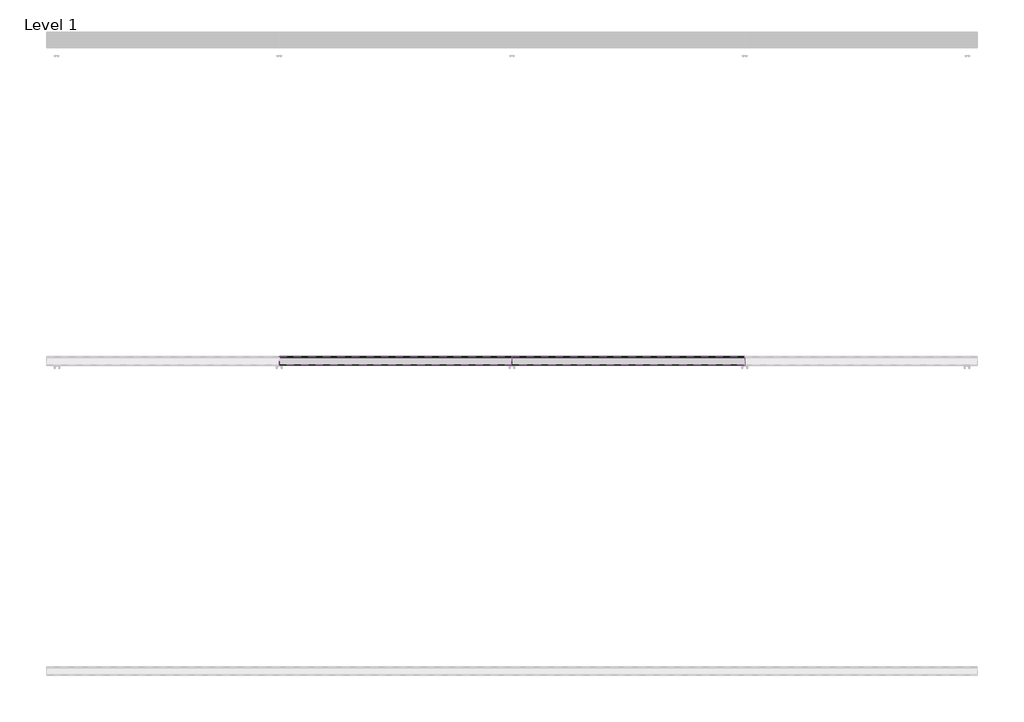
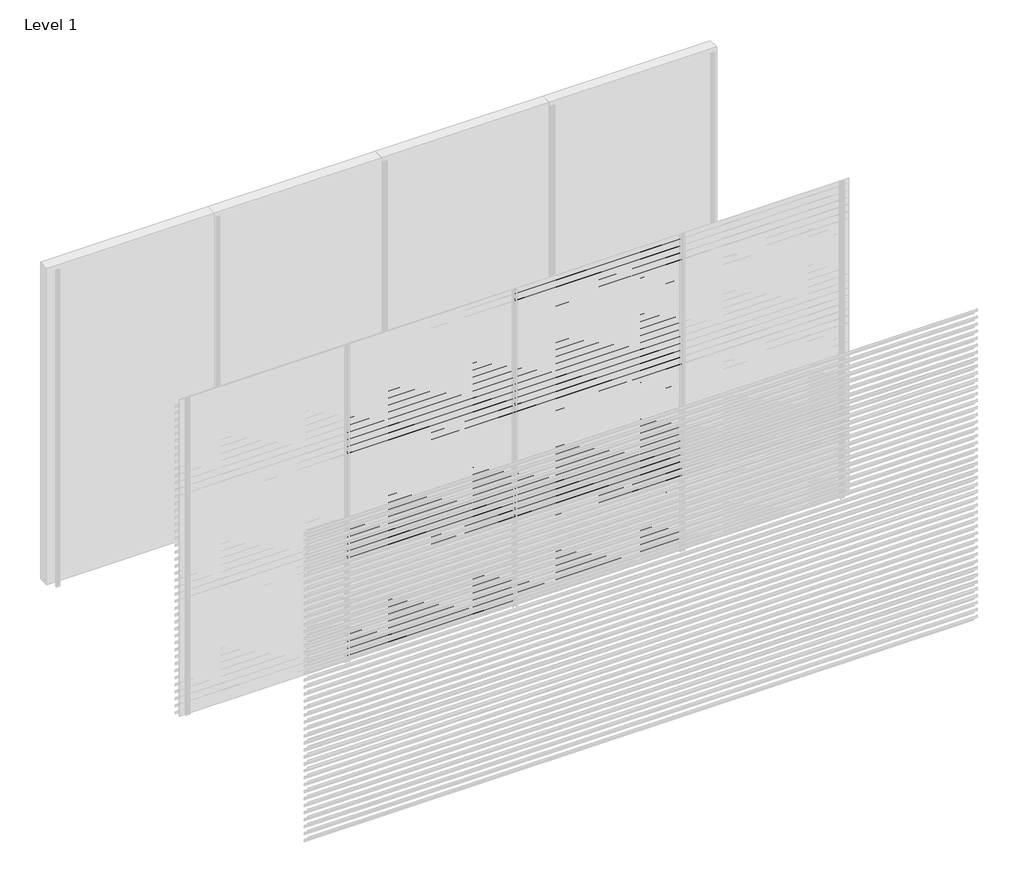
# One storey, part 22 of 25: 87 proxies.
"""IFC4 building model written with IfcOpenShell, lengths in millimetres."""

import ifcopenshell
import ifcopenshell.guid

model = None  # the IFC model being written
_history = None  # IfcOwnerHistory: only IFC2X3 demands one
_inside = {}  # id of a spatial element -> (the spatial element, [elements in it])
_under = {}  # id of a project, library or spatial element -> (it, [spatial elements below it])
_declared = {}  # id of a project -> (the project, [libraries it declares])
_typed = {}  # id of a type object -> (the type object, [elements of that type])
_made_of = {}  # id of a material, layer set ... -> (it, [elements and type objects made of it])


def new_model(schema):
    """Start an empty IFC model of exactly this schema.

    Asked for "IFC4X3", IfcOpenShell would pick the latest addendum, in which some entities
    have other attributes; the version numbers below select the first issue.
    IFC2X3 requires an IfcOwnerHistory on every rooted entity: one is made here for all.
    """
    global model, _history
    if schema == "IFC4X3":
        model = ifcopenshell.file(schema_version=(4, 3, 0, 0))
    else:
        model = ifcopenshell.file(schema=schema)
    _inside.clear()
    _under.clear()
    _declared.clear()
    _typed.clear()
    _made_of.clear()
    _history = None
    if model.schema == "IFC2X3":
        org = make("IfcOrganization", Name="unknown")
        user = make(
            "IfcPersonAndOrganization",
            ThePerson=make("IfcPerson", FamilyName="unknown"),
            TheOrganization=org,
        )
        app = make(
            "IfcApplication",
            ApplicationDeveloper=org,
            Version="unknown",
            ApplicationFullName="unknown",
            ApplicationIdentifier="unknown",
        )
        _history = make(
            "IfcOwnerHistory",
            OwningUser=user,
            OwningApplication=app,
            ChangeAction="ADDED",
            CreationDate=0,
        )
    return model


def make(cls, **values):
    """One entity of the class cls with the attributes given. An attribute that is None is left unset."""
    return model.create_entity(
        cls, **{name: value for name, value in values.items() if value is not None}
    )


def rooted(cls, **values):
    """An entity with a GlobalId (a new one), such as an element, a storey or a relation."""
    return make(cls, GlobalId=ifcopenshell.guid.new(), OwnerHistory=_history, **values)


def si_unit(unit_type, name, prefix=None):
    """IfcSIUnit, for example si_unit("LENGTHUNIT", "METRE", prefix="MILLI")."""
    return make("IfcSIUnit", UnitType=unit_type, Prefix=prefix, Name=name)


def assignment(units):
    """IfcUnitAssignment: the units of a project."""
    return None if units is None else make("IfcUnitAssignment", Units=units)


def point(xyz):
    """IfcCartesianPoint."""
    return None if xyz is None else make("IfcCartesianPoint", Coordinates=xyz)


def direction(xyz):
    """IfcDirection."""
    return None if xyz is None else make("IfcDirection", DirectionRatios=xyz)


def frame(location, z_axis=None, x_axis=None):
    """IfcAxis2Placement3D, a coordinate frame: its origin and axes. An axis left out is left unset."""
    return make(
        "IfcAxis2Placement3D",
        Location=point(location),
        Axis=direction(z_axis),
        RefDirection=direction(x_axis),
    )


def origin():
    """The frame at (0, 0, 0) with its axes left unset."""
    return frame((0.0, 0.0, 0.0))


def place(relative_to, where):
    """IfcLocalPlacement: puts the frame where relative to a parent placement (None: the world)."""
    return make(
        "IfcLocalPlacement", PlacementRelTo=relative_to, RelativePlacement=where
    )


def context(
    kind, dimensions, precision=None, world=None, true_north=None, identifier=None
):
    """IfcGeometricRepresentationContext, for example the 3D "Model" context."""
    return make(
        "IfcGeometricRepresentationContext",
        ContextIdentifier=identifier,
        ContextType=kind,
        CoordinateSpaceDimension=dimensions,
        Precision=precision,
        WorldCoordinateSystem=world,
        TrueNorth=true_north,
    )


def project(units=None, contexts=None):
    """IfcProject with its units and contexts."""
    return rooted(
        "IfcProject",
        Name="project",
        RepresentationContexts=contexts,
        UnitsInContext=assignment(units),
    )


def spatial(cls, under=None, at=None, **own):
    """A site, building, storey or space (cls), placed at a placement, below another one or the project."""
    s = rooted(cls, ObjectPlacement=at, **own)
    if under is not None:
        _under.setdefault(under.id(), (under, []))[1].append(s)
    return s


def polyline(points):
    """IfcPolyline through the points."""
    return make("IfcPolyline", Points=[point(p) for p in points])


def outline(outer, holes=None, kind="AREA"):
    """IfcArbitraryClosedProfileDef: a profile drawn as a closed curve; with holes, ...WithVoids."""
    if holes is None:
        return make("IfcArbitraryClosedProfileDef", ProfileType=kind, OuterCurve=outer)
    return make(
        "IfcArbitraryProfileDefWithVoids",
        ProfileType=kind,
        OuterCurve=outer,
        InnerCurves=holes,
    )


def extrude(swept, where, along, depth):
    """IfcExtrudedAreaSolid: the profile swept, set in the frame where, extruded along a direction by depth."""
    return make(
        "IfcExtrudedAreaSolid",
        SweptArea=swept,
        Position=where,
        ExtrudedDirection=direction(along),
        Depth=depth,
    )


def shape(context_of_items, identifier, shape_type, items):
    """IfcShapeRepresentation: the items that make up one representation, for example the "Body"."""
    return make(
        "IfcShapeRepresentation",
        ContextOfItems=context_of_items,
        RepresentationIdentifier=identifier,
        RepresentationType=shape_type,
        Items=items,
    )


def made_of(thing, what):
    """Note that an element or type object is made of a material, layer set ...; save() writes the relation."""
    if what is not None:
        _made_of.setdefault(what.id(), (what, []))[1].append(thing)
    return thing


def element(
    cls,
    number,
    at=None,
    inside=None,
    cuts=None,
    type_object=None,
    material=None,
    context=None,
    identifier="Body",
    shape_type=None,
    held_by="IfcProductDefinitionShape",
    body=None,
    shapes=None,
    **own,
):
    """One element of the class cls, such as IfcWall. Its Tag is "e" and its number.

    at: its placement. inside: the storey or other place that contains it. cuts: it is an
    opening in that element (IfcRelVoidsElement). A single representation is given by context,
    identifier, shape_type and body (its items); several are given by shapes. held_by: the class
    of the entity that holds the representations. save() writes the other relations.
    """
    e = rooted(cls, Tag="e%d" % number, ObjectPlacement=at, **own)
    if body is not None:
        shapes = [shape(context, identifier, shape_type, body)]
    if shapes is not None:
        e.Representation = make(held_by, Representations=shapes)
    if inside is not None:
        _inside.setdefault(inside.id(), (inside, []))[1].append(e)
    if cuts is not None:
        rooted(
            "IfcRelVoidsElement", RelatingBuildingElement=cuts, RelatedOpeningElement=e
        )
    if type_object is not None:
        _typed.setdefault(type_object.id(), (type_object, []))[1].append(e)
    return made_of(e, material)


def aggregate(whole, parts):
    """IfcRelAggregates: a whole, such as a stair, and the parts it consists of."""
    return rooted("IfcRelAggregates", RelatingObject=whole, RelatedObjects=parts)


def save(model, path):
    """Write the relations noted so far, then the file.

    IfcRelAggregates (storeys below a building ...), IfcRelContainedInSpatialStructure (elements
    in a storey), IfcRelDefinesByType, IfcRelAssociatesMaterial and IfcRelDeclares: one each for
    every whole, place, type object, material and project.
    """
    for whole, parts in _under.values():
        aggregate(whole, parts)
    for where, things in _inside.values():
        rooted(
            "IfcRelContainedInSpatialStructure",
            RelatedElements=things,
            RelatingStructure=where,
        )
    for kind, things in _typed.values():
        rooted("IfcRelDefinesByType", RelatedObjects=things, RelatingType=kind)
    for what, things in _made_of.values():
        rooted("IfcRelAssociatesMaterial", RelatedObjects=things, RelatingMaterial=what)
    for by, libraries in _declared.values():
        rooted("IfcRelDeclares", RelatingContext=by, RelatedDefinitions=libraries)
    model.write(path)


model = new_model("IFC4")

# Units and contexts
model_context = context("Model", 3, world=origin())
ifc_project = project(units=[si_unit("LENGTHUNIT", "METRE", prefix="MILLI")], contexts=[model_context])

# Site, building, storey
site = spatial("IfcSite", under=ifc_project)
building = spatial("IfcBuilding", under=site)
storey = spatial("IfcBuildingStorey", under=building, Name="Level 1", Elevation=0.0)

# Proxies
placement = place(None, origin())
element("IfcBuildingElementProxy", 1, Name="Wall Sweeps", at=placement, inside=storey, context=model_context, shape_type="SweptSolid", body=[
    extrude(outline(polyline([(-5943.0, 2781.5), (-5943.0, 2761.5), (-5944.25, 2762.2216933), (-5944.25, 2780.7872415), (-5998.0, 2818.3158044), (-5998.0, 2838.0), (-5996.75, 2838.0), (-5996.75, 2819.0285629), (-5943.0, 2781.5)])), frame((1500.0, 0.0, 0.0), z_axis=(1.0, 0.0, 0.0), x_axis=(0.0, 1.0, 0.0)), (0.0, 0.0, 1.0), 1500.0),
])
element("IfcBuildingElementProxy", 2, Name="Wall Sweeps", at=placement, inside=storey, context=model_context, shape_type="SweptSolid", body=[
    extrude(outline(polyline([(-5943.0, 2715.5), (-5943.0, 2695.5), (-5944.25, 2696.2216933), (-5944.25, 2714.7872415), (-5998.0, 2752.3158044), (-5998.0, 2772.0), (-5996.75, 2772.0), (-5996.75, 2753.0285629), (-5943.0, 2715.5)])), frame((1500.0, 0.0, 0.0), z_axis=(1.0, 0.0, 0.0), x_axis=(0.0, 1.0, 0.0)), (0.0, 0.0, 1.0), 1500.0),
])
element("IfcBuildingElementProxy", 3, Name="Wall Sweeps", at=placement, inside=storey, context=model_context, shape_type="SweptSolid", body=[
    extrude(outline(polyline([(-5943.0, 2649.5), (-5943.0, 2629.5), (-5944.25, 2630.2216933), (-5944.25, 2648.7872415), (-5998.0, 2686.3158044), (-5998.0, 2706.0), (-5996.75, 2706.0), (-5996.75, 2687.0285629), (-5943.0, 2649.5)])), frame((1500.0, 0.0, 0.0), z_axis=(1.0, 0.0, 0.0), x_axis=(0.0, 1.0, 0.0)), (0.0, 0.0, 1.0), 1500.0),
])
element("IfcBuildingElementProxy", 4, Name="Wall Sweeps", at=placement, inside=storey, context=model_context, shape_type="SweptSolid", body=[
    extrude(outline(polyline([(-5943.0, 2583.5), (-5943.0, 2563.5), (-5944.25, 2564.2216933), (-5944.25, 2582.7872415), (-5998.0, 2620.3158044), (-5998.0, 2640.0), (-5996.75, 2640.0), (-5996.75, 2621.0285629), (-5943.0, 2583.5)])), frame((1500.0, 0.0, 0.0), z_axis=(1.0, 0.0, 0.0), x_axis=(0.0, 1.0, 0.0)), (0.0, 0.0, 1.0), 1500.0),
])
element("IfcBuildingElementProxy", 5, Name="Wall Sweeps", at=placement, inside=storey, context=model_context, shape_type="SweptSolid", body=[
    extrude(outline(polyline([(-5943.0, 2517.5), (-5943.0, 2497.5), (-5944.25, 2498.2216933), (-5944.25, 2516.7872415), (-5998.0, 2554.3158044), (-5998.0, 2574.0), (-5996.75, 2574.0), (-5996.75, 2555.0285629), (-5943.0, 2517.5)])), frame((1500.0, 0.0, 0.0), z_axis=(1.0, 0.0, 0.0), x_axis=(0.0, 1.0, 0.0)), (0.0, 0.0, 1.0), 1500.0),
])
element("IfcBuildingElementProxy", 6, Name="Wall Sweeps", at=placement, inside=storey, context=model_context, shape_type="SweptSolid", body=[
    extrude(outline(polyline([(-5943.0, 2451.5), (-5943.0, 2431.5), (-5944.25, 2432.2216933), (-5944.25, 2450.7872415), (-5998.0, 2488.3158044), (-5998.0, 2508.0), (-5996.75, 2508.0), (-5996.75, 2489.0285629), (-5943.0, 2451.5)])), frame((1500.0, 0.0, 0.0), z_axis=(1.0, 0.0, 0.0), x_axis=(0.0, 1.0, 0.0)), (0.0, 0.0, 1.0), 1500.0),
])
element("IfcBuildingElementProxy", 7, Name="Wall Sweeps", at=placement, inside=storey, context=model_context, shape_type="SweptSolid", body=[
    extrude(outline(polyline([(-5943.0, 2385.5), (-5943.0, 2365.5), (-5944.25, 2366.2216933), (-5944.25, 2384.7872415), (-5998.0, 2422.3158044), (-5998.0, 2442.0), (-5996.75, 2442.0), (-5996.75, 2423.0285629), (-5943.0, 2385.5)])), frame((1500.0, 0.0, 0.0), z_axis=(1.0, 0.0, 0.0), x_axis=(0.0, 1.0, 0.0)), (0.0, 0.0, 1.0), 1500.0),
])
element("IfcBuildingElementProxy", 8, Name="Wall Sweeps", at=placement, inside=storey, context=model_context, shape_type="SweptSolid", body=[
    extrude(outline(polyline([(-5943.0, 2319.5), (-5943.0, 2299.5), (-5944.25, 2300.2216933), (-5944.25, 2318.7872415), (-5998.0, 2356.3158044), (-5998.0, 2376.0), (-5996.75, 2376.0), (-5996.75, 2357.0285629), (-5943.0, 2319.5)])), frame((1500.0, 0.0, 0.0), z_axis=(1.0, 0.0, 0.0), x_axis=(0.0, 1.0, 0.0)), (0.0, 0.0, 1.0), 1500.0),
])
element("IfcBuildingElementProxy", 9, Name="Wall Sweeps", at=placement, inside=storey, context=model_context, shape_type="SweptSolid", body=[
    extrude(outline(polyline([(-5943.0, 2253.5), (-5943.0, 2233.5), (-5944.25, 2234.2216933), (-5944.25, 2252.7872415), (-5998.0, 2290.3158044), (-5998.0, 2310.0), (-5996.75, 2310.0), (-5996.75, 2291.0285629), (-5943.0, 2253.5)])), frame((1500.0, 0.0, 0.0), z_axis=(1.0, 0.0, 0.0), x_axis=(0.0, 1.0, 0.0)), (0.0, 0.0, 1.0), 1500.0),
])
element("IfcBuildingElementProxy", 10, Name="Wall Sweeps", at=placement, inside=storey, context=model_context, shape_type="SweptSolid", body=[
    extrude(outline(polyline([(-5943.0, 2187.5), (-5943.0, 2167.5), (-5944.25, 2168.2216933), (-5944.25, 2186.7872415), (-5998.0, 2224.3158044), (-5998.0, 2244.0), (-5996.75, 2244.0), (-5996.75, 2225.0285629), (-5943.0, 2187.5)])), frame((1500.0, 0.0, 0.0), z_axis=(1.0, 0.0, 0.0), x_axis=(0.0, 1.0, 0.0)), (0.0, 0.0, 1.0), 1500.0),
])
element("IfcBuildingElementProxy", 11, Name="Wall Sweeps", at=placement, inside=storey, context=model_context, shape_type="SweptSolid", body=[
    extrude(outline(polyline([(-5943.0, 2121.5), (-5943.0, 2101.5), (-5944.25, 2102.2216933), (-5944.25, 2120.7872415), (-5998.0, 2158.3158044), (-5998.0, 2178.0), (-5996.75, 2178.0), (-5996.75, 2159.0285629), (-5943.0, 2121.5)])), frame((1500.0, 0.0, 0.0), z_axis=(1.0, 0.0, 0.0), x_axis=(0.0, 1.0, 0.0)), (0.0, 0.0, 1.0), 1500.0),
])
element("IfcBuildingElementProxy", 12, Name="Wall Sweeps", at=placement, inside=storey, context=model_context, shape_type="SweptSolid", body=[
    extrude(outline(polyline([(-5943.0, 2055.5), (-5943.0, 2035.5), (-5944.25, 2036.2216933), (-5944.25, 2054.7872415), (-5998.0, 2092.3158044), (-5998.0, 2112.0), (-5996.75, 2112.0), (-5996.75, 2093.0285629), (-5943.0, 2055.5)])), frame((1500.0, 0.0, 0.0), z_axis=(1.0, 0.0, 0.0), x_axis=(0.0, 1.0, 0.0)), (0.0, 0.0, 1.0), 1500.0),
])
element("IfcBuildingElementProxy", 13, Name="Wall Sweeps", at=placement, inside=storey, context=model_context, shape_type="SweptSolid", body=[
    extrude(outline(polyline([(-5943.0, 1989.5), (-5943.0, 1969.5), (-5944.25, 1970.2216933), (-5944.25, 1988.7872415), (-5998.0, 2026.3158044), (-5998.0, 2046.0), (-5996.75, 2046.0), (-5996.75, 2027.0285629), (-5943.0, 1989.5)])), frame((1500.0, 0.0, 0.0), z_axis=(1.0, 0.0, 0.0), x_axis=(0.0, 1.0, 0.0)), (0.0, 0.0, 1.0), 1500.0),
])
element("IfcBuildingElementProxy", 14, Name="Wall Sweeps", at=placement, inside=storey, context=model_context, shape_type="SweptSolid", body=[
    extrude(outline(polyline([(-5943.0, 1923.5), (-5943.0, 1903.5), (-5944.25, 1904.2216933), (-5944.25, 1922.7872415), (-5998.0, 1960.3158044), (-5998.0, 1980.0), (-5996.75, 1980.0), (-5996.75, 1961.0285629), (-5943.0, 1923.5)])), frame((1500.0, 0.0, 0.0), z_axis=(1.0, 0.0, 0.0), x_axis=(0.0, 1.0, 0.0)), (0.0, 0.0, 1.0), 1500.0),
])
element("IfcBuildingElementProxy", 15, Name="Wall Sweeps", at=placement, inside=storey, context=model_context, shape_type="SweptSolid", body=[
    extrude(outline(polyline([(-5943.0, 1857.5), (-5943.0, 1837.5), (-5944.25, 1838.2216933), (-5944.25, 1856.7872415), (-5998.0, 1894.3158044), (-5998.0, 1914.0), (-5996.75, 1914.0), (-5996.75, 1895.0285629), (-5943.0, 1857.5)])), frame((1500.0, 0.0, 0.0), z_axis=(1.0, 0.0, 0.0), x_axis=(0.0, 1.0, 0.0)), (0.0, 0.0, 1.0), 1500.0),
])
element("IfcBuildingElementProxy", 16, Name="Wall Sweeps", at=placement, inside=storey, context=model_context, shape_type="SweptSolid", body=[
    extrude(outline(polyline([(-5943.0, 1791.5), (-5943.0, 1771.5), (-5944.25, 1772.2216933), (-5944.25, 1790.7872415), (-5998.0, 1828.3158044), (-5998.0, 1848.0), (-5996.75, 1848.0), (-5996.75, 1829.0285629), (-5943.0, 1791.5)])), frame((1500.0, 0.0, 0.0), z_axis=(1.0, 0.0, 0.0), x_axis=(0.0, 1.0, 0.0)), (0.0, 0.0, 1.0), 1500.0),
])
element("IfcBuildingElementProxy", 17, Name="Wall Sweeps", at=placement, inside=storey, context=model_context, shape_type="SweptSolid", body=[
    extrude(outline(polyline([(-5943.0, 1725.5), (-5943.0, 1705.5), (-5944.25, 1706.2216933), (-5944.25, 1724.7872415), (-5998.0, 1762.3158044), (-5998.0, 1782.0), (-5996.75, 1782.0), (-5996.75, 1763.0285629), (-5943.0, 1725.5)])), frame((1500.0, 0.0, 0.0), z_axis=(1.0, 0.0, 0.0), x_axis=(0.0, 1.0, 0.0)), (0.0, 0.0, 1.0), 1500.0),
])
element("IfcBuildingElementProxy", 18, Name="Wall Sweeps", at=placement, inside=storey, context=model_context, shape_type="SweptSolid", body=[
    extrude(outline(polyline([(-5943.0, 1659.5), (-5943.0, 1639.5), (-5944.25, 1640.2216933), (-5944.25, 1658.7872415), (-5998.0, 1696.3158044), (-5998.0, 1716.0), (-5996.75, 1716.0), (-5996.75, 1697.0285629), (-5943.0, 1659.5)])), frame((1500.0, 0.0, 0.0), z_axis=(1.0, 0.0, 0.0), x_axis=(0.0, 1.0, 0.0)), (0.0, 0.0, 1.0), 1500.0),
])
element("IfcBuildingElementProxy", 19, Name="Wall Sweeps", at=placement, inside=storey, context=model_context, shape_type="SweptSolid", body=[
    extrude(outline(polyline([(-5943.0, 1593.5), (-5943.0, 1573.5), (-5944.25, 1574.2216933), (-5944.25, 1592.7872415), (-5998.0, 1630.3158044), (-5998.0, 1650.0), (-5996.75, 1650.0), (-5996.75, 1631.0285629), (-5943.0, 1593.5)])), frame((1500.0, 0.0, 0.0), z_axis=(1.0, 0.0, 0.0), x_axis=(0.0, 1.0, 0.0)), (0.0, 0.0, 1.0), 1500.0),
])
element("IfcBuildingElementProxy", 20, Name="Wall Sweeps", at=placement, inside=storey, context=model_context, shape_type="SweptSolid", body=[
    extrude(outline(polyline([(-5943.0, 1527.5), (-5943.0, 1507.5), (-5944.25, 1508.2216933), (-5944.25, 1526.7872415), (-5998.0, 1564.3158044), (-5998.0, 1584.0), (-5996.75, 1584.0), (-5996.75, 1565.0285629), (-5943.0, 1527.5)])), frame((1500.0, 0.0, 0.0), z_axis=(1.0, 0.0, 0.0), x_axis=(0.0, 1.0, 0.0)), (0.0, 0.0, 1.0), 1500.0),
])
element("IfcBuildingElementProxy", 21, Name="Wall Sweeps", at=placement, inside=storey, context=model_context, shape_type="SweptSolid", body=[
    extrude(outline(polyline([(-5943.0, 1461.5), (-5943.0, 1441.5), (-5944.25, 1442.2216933), (-5944.25, 1460.7872415), (-5998.0, 1498.3158044), (-5998.0, 1518.0), (-5996.75, 1518.0), (-5996.75, 1499.0285629), (-5943.0, 1461.5)])), frame((1500.0, 0.0, 0.0), z_axis=(1.0, 0.0, 0.0), x_axis=(0.0, 1.0, 0.0)), (0.0, 0.0, 1.0), 1500.0),
])
element("IfcBuildingElementProxy", 22, Name="Wall Sweeps", at=placement, inside=storey, context=model_context, shape_type="SweptSolid", body=[
    extrude(outline(polyline([(-5943.0, 1395.5), (-5943.0, 1375.5), (-5944.25, 1376.2216933), (-5944.25, 1394.7872415), (-5998.0, 1432.3158044), (-5998.0, 1452.0), (-5996.75, 1452.0), (-5996.75, 1433.0285629), (-5943.0, 1395.5)])), frame((1500.0, 0.0, 0.0), z_axis=(1.0, 0.0, 0.0), x_axis=(0.0, 1.0, 0.0)), (0.0, 0.0, 1.0), 1500.0),
])
element("IfcBuildingElementProxy", 23, Name="Wall Sweeps", at=placement, inside=storey, context=model_context, shape_type="SweptSolid", body=[
    extrude(outline(polyline([(-5943.0, 1329.5), (-5943.0, 1309.5), (-5944.25, 1310.2216933), (-5944.25, 1328.7872415), (-5998.0, 1366.3158044), (-5998.0, 1386.0), (-5996.75, 1386.0), (-5996.75, 1367.0285629), (-5943.0, 1329.5)])), frame((1500.0, 0.0, 0.0), z_axis=(1.0, 0.0, 0.0), x_axis=(0.0, 1.0, 0.0)), (0.0, 0.0, 1.0), 1500.0),
])
element("IfcBuildingElementProxy", 24, Name="Wall Sweeps", at=placement, inside=storey, context=model_context, shape_type="SweptSolid", body=[
    extrude(outline(polyline([(-5943.0, 1263.5), (-5943.0, 1243.5), (-5944.25, 1244.2216933), (-5944.25, 1262.7872415), (-5998.0, 1300.3158044), (-5998.0, 1320.0), (-5996.75, 1320.0), (-5996.75, 1301.0285629), (-5943.0, 1263.5)])), frame((1500.0, 0.0, 0.0), z_axis=(1.0, 0.0, 0.0), x_axis=(0.0, 1.0, 0.0)), (0.0, 0.0, 1.0), 1500.0),
])
element("IfcBuildingElementProxy", 25, Name="Wall Sweeps", at=placement, inside=storey, context=model_context, shape_type="SweptSolid", body=[
    extrude(outline(polyline([(-5943.0, 1197.5), (-5943.0, 1177.5), (-5944.25, 1178.2216933), (-5944.25, 1196.7872415), (-5998.0, 1234.3158044), (-5998.0, 1254.0), (-5996.75, 1254.0), (-5996.75, 1235.0285629), (-5943.0, 1197.5)])), frame((1500.0, 0.0, 0.0), z_axis=(1.0, 0.0, 0.0), x_axis=(0.0, 1.0, 0.0)), (0.0, 0.0, 1.0), 1500.0),
])
element("IfcBuildingElementProxy", 26, Name="Wall Sweeps", at=placement, inside=storey, context=model_context, shape_type="SweptSolid", body=[
    extrude(outline(polyline([(-5943.0, 1131.5), (-5943.0, 1111.5), (-5944.25, 1112.2216933), (-5944.25, 1130.7872415), (-5998.0, 1168.3158044), (-5998.0, 1188.0), (-5996.75, 1188.0), (-5996.75, 1169.0285629), (-5943.0, 1131.5)])), frame((1500.0, 0.0, 0.0), z_axis=(1.0, 0.0, 0.0), x_axis=(0.0, 1.0, 0.0)), (0.0, 0.0, 1.0), 1500.0),
])
element("IfcBuildingElementProxy", 27, Name="Wall Sweeps", at=placement, inside=storey, context=model_context, shape_type="SweptSolid", body=[
    extrude(outline(polyline([(-5943.0, 1065.5), (-5943.0, 1045.5), (-5944.25, 1046.2216933), (-5944.25, 1064.7872415), (-5998.0, 1102.3158044), (-5998.0, 1122.0), (-5996.75, 1122.0), (-5996.75, 1103.0285629), (-5943.0, 1065.5)])), frame((1500.0, 0.0, 0.0), z_axis=(1.0, 0.0, 0.0), x_axis=(0.0, 1.0, 0.0)), (0.0, 0.0, 1.0), 1500.0),
])
element("IfcBuildingElementProxy", 28, Name="Wall Sweeps", at=placement, inside=storey, context=model_context, shape_type="SweptSolid", body=[
    extrude(outline(polyline([(-5943.0, 999.5), (-5943.0, 979.5), (-5944.25, 980.2216933), (-5944.25, 998.7872415), (-5998.0, 1036.3158044), (-5998.0, 1056.0), (-5996.75, 1056.0), (-5996.75, 1037.0285629), (-5943.0, 999.5)])), frame((1500.0, 0.0, 0.0), z_axis=(1.0, 0.0, 0.0), x_axis=(0.0, 1.0, 0.0)), (0.0, 0.0, 1.0), 1500.0),
])
element("IfcBuildingElementProxy", 29, Name="Wall Sweeps", at=placement, inside=storey, context=model_context, shape_type="SweptSolid", body=[
    extrude(outline(polyline([(-5943.0, 933.5), (-5943.0, 913.5), (-5944.25, 914.2216933), (-5944.25, 932.7872415), (-5998.0, 970.3158044), (-5998.0, 990.0), (-5996.75, 990.0), (-5996.75, 971.0285629), (-5943.0, 933.5)])), frame((1500.0, 0.0, 0.0), z_axis=(1.0, 0.0, 0.0), x_axis=(0.0, 1.0, 0.0)), (0.0, 0.0, 1.0), 1500.0),
])
element("IfcBuildingElementProxy", 30, Name="Wall Sweeps", at=placement, inside=storey, context=model_context, shape_type="SweptSolid", body=[
    extrude(outline(polyline([(-5943.0, 867.5), (-5943.0, 847.5), (-5944.25, 848.2216933), (-5944.25, 866.7872415), (-5998.0, 904.3158044), (-5998.0, 924.0), (-5996.75, 924.0), (-5996.75, 905.0285629), (-5943.0, 867.5)])), frame((1500.0, 0.0, 0.0), z_axis=(1.0, 0.0, 0.0), x_axis=(0.0, 1.0, 0.0)), (0.0, 0.0, 1.0), 1500.0),
])
element("IfcBuildingElementProxy", 31, Name="Wall Sweeps", at=placement, inside=storey, context=model_context, shape_type="SweptSolid", body=[
    extrude(outline(polyline([(-5943.0, 801.5), (-5943.0, 781.5), (-5944.25, 782.2216933), (-5944.25, 800.7872415), (-5998.0, 838.3158044), (-5998.0, 858.0), (-5996.75, 858.0), (-5996.75, 839.0285629), (-5943.0, 801.5)])), frame((1500.0, 0.0, 0.0), z_axis=(1.0, 0.0, 0.0), x_axis=(0.0, 1.0, 0.0)), (0.0, 0.0, 1.0), 1500.0),
])
element("IfcBuildingElementProxy", 32, Name="Wall Sweeps", at=placement, inside=storey, context=model_context, shape_type="SweptSolid", body=[
    extrude(outline(polyline([(-5943.0, 735.5), (-5943.0, 715.5), (-5944.25, 716.2216933), (-5944.25, 734.7872415), (-5998.0, 772.3158044), (-5998.0, 792.0), (-5996.75, 792.0), (-5996.75, 773.0285629), (-5943.0, 735.5)])), frame((1500.0, 0.0, 0.0), z_axis=(1.0, 0.0, 0.0), x_axis=(0.0, 1.0, 0.0)), (0.0, 0.0, 1.0), 1500.0),
])
element("IfcBuildingElementProxy", 33, Name="Wall Sweeps", at=placement, inside=storey, context=model_context, shape_type="SweptSolid", body=[
    extrude(outline(polyline([(-5943.0, 669.5), (-5943.0, 649.5), (-5944.25, 650.2216933), (-5944.25, 668.7872415), (-5998.0, 706.3158044), (-5998.0, 726.0), (-5996.75, 726.0), (-5996.75, 707.0285629), (-5943.0, 669.5)])), frame((1500.0, 0.0, 0.0), z_axis=(1.0, 0.0, 0.0), x_axis=(0.0, 1.0, 0.0)), (0.0, 0.0, 1.0), 1500.0),
])
element("IfcBuildingElementProxy", 34, Name="Wall Sweeps", at=placement, inside=storey, context=model_context, shape_type="SweptSolid", body=[
    extrude(outline(polyline([(-5943.0, 603.5), (-5943.0, 583.5), (-5944.25, 584.2216933), (-5944.25, 602.7872415), (-5998.0, 640.3158044), (-5998.0, 660.0), (-5996.75, 660.0), (-5996.75, 641.0285629), (-5943.0, 603.5)])), frame((1500.0, 0.0, 0.0), z_axis=(1.0, 0.0, 0.0), x_axis=(0.0, 1.0, 0.0)), (0.0, 0.0, 1.0), 1500.0),
])
element("IfcBuildingElementProxy", 35, Name="Wall Sweeps", at=placement, inside=storey, context=model_context, shape_type="SweptSolid", body=[
    extrude(outline(polyline([(-5943.0, 537.5), (-5943.0, 517.5), (-5944.25, 518.2216933), (-5944.25, 536.7872415), (-5998.0, 574.3158044), (-5998.0, 594.0), (-5996.75, 594.0), (-5996.75, 575.0285629), (-5943.0, 537.5)])), frame((1500.0, 0.0, 0.0), z_axis=(1.0, 0.0, 0.0), x_axis=(0.0, 1.0, 0.0)), (0.0, 0.0, 1.0), 1500.0),
])
element("IfcBuildingElementProxy", 36, Name="Wall Sweeps", at=placement, inside=storey, context=model_context, shape_type="SweptSolid", body=[
    extrude(outline(polyline([(-5943.0, 471.5), (-5943.0, 451.5), (-5944.25, 452.2216933), (-5944.25, 470.7872415), (-5998.0, 508.3158044), (-5998.0, 528.0), (-5996.75, 528.0), (-5996.75, 509.0285629), (-5943.0, 471.5)])), frame((1500.0, 0.0, 0.0), z_axis=(1.0, 0.0, 0.0), x_axis=(0.0, 1.0, 0.0)), (0.0, 0.0, 1.0), 1500.0),
])
element("IfcBuildingElementProxy", 37, Name="Wall Sweeps", at=placement, inside=storey, context=model_context, shape_type="SweptSolid", body=[
    extrude(outline(polyline([(-5943.0, 405.5), (-5943.0, 385.5), (-5944.25, 386.2216933), (-5944.25, 404.7872415), (-5998.0, 442.3158044), (-5998.0, 462.0), (-5996.75, 462.0), (-5996.75, 443.0285629), (-5943.0, 405.5)])), frame((1500.0, 0.0, 0.0), z_axis=(1.0, 0.0, 0.0), x_axis=(0.0, 1.0, 0.0)), (0.0, 0.0, 1.0), 1500.0),
])
element("IfcBuildingElementProxy", 38, Name="Wall Sweeps", at=placement, inside=storey, context=model_context, shape_type="SweptSolid", body=[
    extrude(outline(polyline([(-5943.0, 339.5), (-5943.0, 319.5), (-5944.25, 320.2216933), (-5944.25, 338.7872415), (-5998.0, 376.3158044), (-5998.0, 396.0), (-5996.75, 396.0), (-5996.75, 377.0285629), (-5943.0, 339.5)])), frame((1500.0, 0.0, 0.0), z_axis=(1.0, 0.0, 0.0), x_axis=(0.0, 1.0, 0.0)), (0.0, 0.0, 1.0), 1500.0),
])
element("IfcBuildingElementProxy", 39, Name="Wall Sweeps", at=placement, inside=storey, context=model_context, shape_type="SweptSolid", body=[
    extrude(outline(polyline([(-5943.0, 273.5), (-5943.0, 253.5), (-5944.25, 254.2216933), (-5944.25, 272.7872415), (-5998.0, 310.3158044), (-5998.0, 330.0), (-5996.75, 330.0), (-5996.75, 311.0285629), (-5943.0, 273.5)])), frame((1500.0, 0.0, 0.0), z_axis=(1.0, 0.0, 0.0), x_axis=(0.0, 1.0, 0.0)), (0.0, 0.0, 1.0), 1500.0),
])
element("IfcBuildingElementProxy", 40, Name="Wall Sweeps", at=placement, inside=storey, context=model_context, shape_type="SweptSolid", body=[
    extrude(outline(polyline([(-5943.0, 207.5), (-5943.0, 187.5), (-5944.25, 188.2216933), (-5944.25, 206.7872415), (-5998.0, 244.3158044), (-5998.0, 264.0), (-5996.75, 264.0), (-5996.75, 245.0285629), (-5943.0, 207.5)])), frame((1500.0, 0.0, 0.0), z_axis=(1.0, 0.0, 0.0), x_axis=(0.0, 1.0, 0.0)), (0.0, 0.0, 1.0), 1500.0),
])
element("IfcBuildingElementProxy", 41, Name="Wall Sweeps", at=placement, inside=storey, context=model_context, shape_type="SweptSolid", body=[
    extrude(outline(polyline([(-5943.0, 141.5), (-5943.0, 121.5), (-5944.25, 122.2216933), (-5944.25, 140.7872415), (-5998.0, 178.3158044), (-5998.0, 198.0), (-5996.75, 198.0), (-5996.75, 179.0285629), (-5943.0, 141.5)])), frame((1500.0, 0.0, 0.0), z_axis=(1.0, 0.0, 0.0), x_axis=(0.0, 1.0, 0.0)), (0.0, 0.0, 1.0), 1500.0),
])
element("IfcBuildingElementProxy", 42, Name="Wall Sweeps", at=placement, inside=storey, context=model_context, shape_type="SweptSolid", body=[
    extrude(outline(polyline([(-5943.0, 75.5), (-5943.0, 55.5), (-5944.25, 56.2216933), (-5944.25, 74.7872415), (-5998.0, 112.3158044), (-5998.0, 132.0), (-5996.75, 132.0), (-5996.75, 113.0285629), (-5943.0, 75.5)])), frame((1500.0, 0.0, 0.0), z_axis=(1.0, 0.0, 0.0), x_axis=(0.0, 1.0, 0.0)), (0.0, 0.0, 1.0), 1500.0),
])
element("IfcBuildingElementProxy", 43, Name="Wall Sweeps", at=placement, inside=storey, context=model_context, shape_type="SweptSolid", body=[
    extrude(outline(polyline([(-5943.0, 9.5), (-5943.0, -10.5), (-5944.25, -9.7783067), (-5944.25, 8.7872415), (-5998.0, 46.3158044), (-5998.0, 66.0), (-5996.75, 66.0), (-5996.75, 47.0285629), (-5943.0, 9.5)])), frame((1500.0, 0.0, 0.0), z_axis=(1.0, 0.0, 0.0), x_axis=(0.0, 1.0, 0.0)), (0.0, 0.0, 1.0), 1500.0),
])
element("IfcBuildingElementProxy", 44, Name="Wall Sweeps", at=placement, inside=storey, context=model_context, shape_type="SweptSolid", body=[
    extrude(outline(polyline([(-5943.0, 2913.5), (-5943.0, 2893.5), (-5944.25, 2894.2216933), (-5944.25, 2912.7872415), (-5998.0, 2950.3158044), (-5998.0, 2970.0), (-5996.75, 2970.0), (-5996.75, 2951.0285629), (-5943.0, 2913.5)])), frame((3000.0, 0.0, 0.0), z_axis=(1.0, 0.0, 0.0), x_axis=(0.0, 1.0, 0.0)), (0.0, 0.0, 1.0), 1500.0),
])
element("IfcBuildingElementProxy", 45, Name="Wall Sweeps", at=placement, inside=storey, context=model_context, shape_type="SweptSolid", body=[
    extrude(outline(polyline([(-5943.0, 2847.5), (-5943.0, 2827.5), (-5944.25, 2828.2216933), (-5944.25, 2846.7872415), (-5998.0, 2884.3158044), (-5998.0, 2904.0), (-5996.75, 2904.0), (-5996.75, 2885.0285629), (-5943.0, 2847.5)])), frame((3000.0, 0.0, 0.0), z_axis=(1.0, 0.0, 0.0), x_axis=(0.0, 1.0, 0.0)), (0.0, 0.0, 1.0), 1500.0),
])
element("IfcBuildingElementProxy", 46, Name="Wall Sweeps", at=placement, inside=storey, context=model_context, shape_type="SweptSolid", body=[
    extrude(outline(polyline([(-5943.0, 2781.5), (-5943.0, 2761.5), (-5944.25, 2762.2216933), (-5944.25, 2780.7872415), (-5998.0, 2818.3158044), (-5998.0, 2838.0), (-5996.75, 2838.0), (-5996.75, 2819.0285629), (-5943.0, 2781.5)])), frame((3000.0, 0.0, 0.0), z_axis=(1.0, 0.0, 0.0), x_axis=(0.0, 1.0, 0.0)), (0.0, 0.0, 1.0), 1500.0),
])
element("IfcBuildingElementProxy", 47, Name="Wall Sweeps", at=placement, inside=storey, context=model_context, shape_type="SweptSolid", body=[
    extrude(outline(polyline([(-5943.0, 2715.5), (-5943.0, 2695.5), (-5944.25, 2696.2216933), (-5944.25, 2714.7872415), (-5998.0, 2752.3158044), (-5998.0, 2772.0), (-5996.75, 2772.0), (-5996.75, 2753.0285629), (-5943.0, 2715.5)])), frame((3000.0, 0.0, 0.0), z_axis=(1.0, 0.0, 0.0), x_axis=(0.0, 1.0, 0.0)), (0.0, 0.0, 1.0), 1500.0),
])
element("IfcBuildingElementProxy", 48, Name="Wall Sweeps", at=placement, inside=storey, context=model_context, shape_type="SweptSolid", body=[
    extrude(outline(polyline([(-5943.0, 2649.5), (-5943.0, 2629.5), (-5944.25, 2630.2216933), (-5944.25, 2648.7872415), (-5998.0, 2686.3158044), (-5998.0, 2706.0), (-5996.75, 2706.0), (-5996.75, 2687.0285629), (-5943.0, 2649.5)])), frame((3000.0, 0.0, 0.0), z_axis=(1.0, 0.0, 0.0), x_axis=(0.0, 1.0, 0.0)), (0.0, 0.0, 1.0), 1500.0),
])
element("IfcBuildingElementProxy", 49, Name="Wall Sweeps", at=placement, inside=storey, context=model_context, shape_type="SweptSolid", body=[
    extrude(outline(polyline([(-5943.0, 2583.5), (-5943.0, 2563.5), (-5944.25, 2564.2216933), (-5944.25, 2582.7872415), (-5998.0, 2620.3158044), (-5998.0, 2640.0), (-5996.75, 2640.0), (-5996.75, 2621.0285629), (-5943.0, 2583.5)])), frame((3000.0, 0.0, 0.0), z_axis=(1.0, 0.0, 0.0), x_axis=(0.0, 1.0, 0.0)), (0.0, 0.0, 1.0), 1500.0),
])
element("IfcBuildingElementProxy", 50, Name="Wall Sweeps", at=placement, inside=storey, context=model_context, shape_type="SweptSolid", body=[
    extrude(outline(polyline([(-5943.0, 2517.5), (-5943.0, 2497.5), (-5944.25, 2498.2216933), (-5944.25, 2516.7872415), (-5998.0, 2554.3158044), (-5998.0, 2574.0), (-5996.75, 2574.0), (-5996.75, 2555.0285629), (-5943.0, 2517.5)])), frame((3000.0, 0.0, 0.0), z_axis=(1.0, 0.0, 0.0), x_axis=(0.0, 1.0, 0.0)), (0.0, 0.0, 1.0), 1500.0),
])
element("IfcBuildingElementProxy", 51, Name="Wall Sweeps", at=placement, inside=storey, context=model_context, shape_type="SweptSolid", body=[
    extrude(outline(polyline([(-5943.0, 2451.5), (-5943.0, 2431.5), (-5944.25, 2432.2216933), (-5944.25, 2450.7872415), (-5998.0, 2488.3158044), (-5998.0, 2508.0), (-5996.75, 2508.0), (-5996.75, 2489.0285629), (-5943.0, 2451.5)])), frame((3000.0, 0.0, 0.0), z_axis=(1.0, 0.0, 0.0), x_axis=(0.0, 1.0, 0.0)), (0.0, 0.0, 1.0), 1500.0),
])
element("IfcBuildingElementProxy", 52, Name="Wall Sweeps", at=placement, inside=storey, context=model_context, shape_type="SweptSolid", body=[
    extrude(outline(polyline([(-5943.0, 2385.5), (-5943.0, 2365.5), (-5944.25, 2366.2216933), (-5944.25, 2384.7872415), (-5998.0, 2422.3158044), (-5998.0, 2442.0), (-5996.75, 2442.0), (-5996.75, 2423.0285629), (-5943.0, 2385.5)])), frame((3000.0, 0.0, 0.0), z_axis=(1.0, 0.0, 0.0), x_axis=(0.0, 1.0, 0.0)), (0.0, 0.0, 1.0), 1500.0),
])
element("IfcBuildingElementProxy", 53, Name="Wall Sweeps", at=placement, inside=storey, context=model_context, shape_type="SweptSolid", body=[
    extrude(outline(polyline([(-5943.0, 2319.5), (-5943.0, 2299.5), (-5944.25, 2300.2216933), (-5944.25, 2318.7872415), (-5998.0, 2356.3158044), (-5998.0, 2376.0), (-5996.75, 2376.0), (-5996.75, 2357.0285629), (-5943.0, 2319.5)])), frame((3000.0, 0.0, 0.0), z_axis=(1.0, 0.0, 0.0), x_axis=(0.0, 1.0, 0.0)), (0.0, 0.0, 1.0), 1500.0),
])
element("IfcBuildingElementProxy", 54, Name="Wall Sweeps", at=placement, inside=storey, context=model_context, shape_type="SweptSolid", body=[
    extrude(outline(polyline([(-5943.0, 2253.5), (-5943.0, 2233.5), (-5944.25, 2234.2216933), (-5944.25, 2252.7872415), (-5998.0, 2290.3158044), (-5998.0, 2310.0), (-5996.75, 2310.0), (-5996.75, 2291.0285629), (-5943.0, 2253.5)])), frame((3000.0, 0.0, 0.0), z_axis=(1.0, 0.0, 0.0), x_axis=(0.0, 1.0, 0.0)), (0.0, 0.0, 1.0), 1500.0),
])
element("IfcBuildingElementProxy", 55, Name="Wall Sweeps", at=placement, inside=storey, context=model_context, shape_type="SweptSolid", body=[
    extrude(outline(polyline([(-5943.0, 2187.5), (-5943.0, 2167.5), (-5944.25, 2168.2216933), (-5944.25, 2186.7872415), (-5998.0, 2224.3158044), (-5998.0, 2244.0), (-5996.75, 2244.0), (-5996.75, 2225.0285629), (-5943.0, 2187.5)])), frame((3000.0, 0.0, 0.0), z_axis=(1.0, 0.0, 0.0), x_axis=(0.0, 1.0, 0.0)), (0.0, 0.0, 1.0), 1500.0),
])
element("IfcBuildingElementProxy", 56, Name="Wall Sweeps", at=placement, inside=storey, context=model_context, shape_type="SweptSolid", body=[
    extrude(outline(polyline([(-5943.0, 2121.5), (-5943.0, 2101.5), (-5944.25, 2102.2216933), (-5944.25, 2120.7872415), (-5998.0, 2158.3158044), (-5998.0, 2178.0), (-5996.75, 2178.0), (-5996.75, 2159.0285629), (-5943.0, 2121.5)])), frame((3000.0, 0.0, 0.0), z_axis=(1.0, 0.0, 0.0), x_axis=(0.0, 1.0, 0.0)), (0.0, 0.0, 1.0), 1500.0),
])
element("IfcBuildingElementProxy", 57, Name="Wall Sweeps", at=placement, inside=storey, context=model_context, shape_type="SweptSolid", body=[
    extrude(outline(polyline([(-5943.0, 2055.5), (-5943.0, 2035.5), (-5944.25, 2036.2216933), (-5944.25, 2054.7872415), (-5998.0, 2092.3158044), (-5998.0, 2112.0), (-5996.75, 2112.0), (-5996.75, 2093.0285629), (-5943.0, 2055.5)])), frame((3000.0, 0.0, 0.0), z_axis=(1.0, 0.0, 0.0), x_axis=(0.0, 1.0, 0.0)), (0.0, 0.0, 1.0), 1500.0),
])
element("IfcBuildingElementProxy", 58, Name="Wall Sweeps", at=placement, inside=storey, context=model_context, shape_type="SweptSolid", body=[
    extrude(outline(polyline([(-5943.0, 1989.5), (-5943.0, 1969.5), (-5944.25, 1970.2216933), (-5944.25, 1988.7872415), (-5998.0, 2026.3158044), (-5998.0, 2046.0), (-5996.75, 2046.0), (-5996.75, 2027.0285629), (-5943.0, 1989.5)])), frame((3000.0, 0.0, 0.0), z_axis=(1.0, 0.0, 0.0), x_axis=(0.0, 1.0, 0.0)), (0.0, 0.0, 1.0), 1500.0),
])
element("IfcBuildingElementProxy", 59, Name="Wall Sweeps", at=placement, inside=storey, context=model_context, shape_type="SweptSolid", body=[
    extrude(outline(polyline([(-5943.0, 1923.5), (-5943.0, 1903.5), (-5944.25, 1904.2216933), (-5944.25, 1922.7872415), (-5998.0, 1960.3158044), (-5998.0, 1980.0), (-5996.75, 1980.0), (-5996.75, 1961.0285629), (-5943.0, 1923.5)])), frame((3000.0, 0.0, 0.0), z_axis=(1.0, 0.0, 0.0), x_axis=(0.0, 1.0, 0.0)), (0.0, 0.0, 1.0), 1500.0),
])
element("IfcBuildingElementProxy", 60, Name="Wall Sweeps", at=placement, inside=storey, context=model_context, shape_type="SweptSolid", body=[
    extrude(outline(polyline([(-5943.0, 1857.5), (-5943.0, 1837.5), (-5944.25, 1838.2216933), (-5944.25, 1856.7872415), (-5998.0, 1894.3158044), (-5998.0, 1914.0), (-5996.75, 1914.0), (-5996.75, 1895.0285629), (-5943.0, 1857.5)])), frame((3000.0, 0.0, 0.0), z_axis=(1.0, 0.0, 0.0), x_axis=(0.0, 1.0, 0.0)), (0.0, 0.0, 1.0), 1500.0),
])
element("IfcBuildingElementProxy", 61, Name="Wall Sweeps", at=placement, inside=storey, context=model_context, shape_type="SweptSolid", body=[
    extrude(outline(polyline([(-5943.0, 1791.5), (-5943.0, 1771.5), (-5944.25, 1772.2216933), (-5944.25, 1790.7872415), (-5998.0, 1828.3158044), (-5998.0, 1848.0), (-5996.75, 1848.0), (-5996.75, 1829.0285629), (-5943.0, 1791.5)])), frame((3000.0, 0.0, 0.0), z_axis=(1.0, 0.0, 0.0), x_axis=(0.0, 1.0, 0.0)), (0.0, 0.0, 1.0), 1500.0),
])
element("IfcBuildingElementProxy", 62, Name="Wall Sweeps", at=placement, inside=storey, context=model_context, shape_type="SweptSolid", body=[
    extrude(outline(polyline([(-5943.0, 1725.5), (-5943.0, 1705.5), (-5944.25, 1706.2216933), (-5944.25, 1724.7872415), (-5998.0, 1762.3158044), (-5998.0, 1782.0), (-5996.75, 1782.0), (-5996.75, 1763.0285629), (-5943.0, 1725.5)])), frame((3000.0, 0.0, 0.0), z_axis=(1.0, 0.0, 0.0), x_axis=(0.0, 1.0, 0.0)), (0.0, 0.0, 1.0), 1500.0),
])
element("IfcBuildingElementProxy", 63, Name="Wall Sweeps", at=placement, inside=storey, context=model_context, shape_type="SweptSolid", body=[
    extrude(outline(polyline([(-5943.0, 1659.5), (-5943.0, 1639.5), (-5944.25, 1640.2216933), (-5944.25, 1658.7872415), (-5998.0, 1696.3158044), (-5998.0, 1716.0), (-5996.75, 1716.0), (-5996.75, 1697.0285629), (-5943.0, 1659.5)])), frame((3000.0, 0.0, 0.0), z_axis=(1.0, 0.0, 0.0), x_axis=(0.0, 1.0, 0.0)), (0.0, 0.0, 1.0), 1500.0),
])
element("IfcBuildingElementProxy", 64, Name="Wall Sweeps", at=placement, inside=storey, context=model_context, shape_type="SweptSolid", body=[
    extrude(outline(polyline([(-5943.0, 1593.5), (-5943.0, 1573.5), (-5944.25, 1574.2216933), (-5944.25, 1592.7872415), (-5998.0, 1630.3158044), (-5998.0, 1650.0), (-5996.75, 1650.0), (-5996.75, 1631.0285629), (-5943.0, 1593.5)])), frame((3000.0, 0.0, 0.0), z_axis=(1.0, 0.0, 0.0), x_axis=(0.0, 1.0, 0.0)), (0.0, 0.0, 1.0), 1500.0),
])
element("IfcBuildingElementProxy", 65, Name="Wall Sweeps", at=placement, inside=storey, context=model_context, shape_type="SweptSolid", body=[
    extrude(outline(polyline([(-5943.0, 1527.5), (-5943.0, 1507.5), (-5944.25, 1508.2216933), (-5944.25, 1526.7872415), (-5998.0, 1564.3158044), (-5998.0, 1584.0), (-5996.75, 1584.0), (-5996.75, 1565.0285629), (-5943.0, 1527.5)])), frame((3000.0, 0.0, 0.0), z_axis=(1.0, 0.0, 0.0), x_axis=(0.0, 1.0, 0.0)), (0.0, 0.0, 1.0), 1500.0),
])
element("IfcBuildingElementProxy", 66, Name="Wall Sweeps", at=placement, inside=storey, context=model_context, shape_type="SweptSolid", body=[
    extrude(outline(polyline([(-5943.0, 1461.5), (-5943.0, 1441.5), (-5944.25, 1442.2216933), (-5944.25, 1460.7872415), (-5998.0, 1498.3158044), (-5998.0, 1518.0), (-5996.75, 1518.0), (-5996.75, 1499.0285629), (-5943.0, 1461.5)])), frame((3000.0, 0.0, 0.0), z_axis=(1.0, 0.0, 0.0), x_axis=(0.0, 1.0, 0.0)), (0.0, 0.0, 1.0), 1500.0),
])
element("IfcBuildingElementProxy", 67, Name="Wall Sweeps", at=placement, inside=storey, context=model_context, shape_type="SweptSolid", body=[
    extrude(outline(polyline([(-5943.0, 1395.5), (-5943.0, 1375.5), (-5944.25, 1376.2216933), (-5944.25, 1394.7872415), (-5998.0, 1432.3158044), (-5998.0, 1452.0), (-5996.75, 1452.0), (-5996.75, 1433.0285629), (-5943.0, 1395.5)])), frame((3000.0, 0.0, 0.0), z_axis=(1.0, 0.0, 0.0), x_axis=(0.0, 1.0, 0.0)), (0.0, 0.0, 1.0), 1500.0),
])
element("IfcBuildingElementProxy", 68, Name="Wall Sweeps", at=placement, inside=storey, context=model_context, shape_type="SweptSolid", body=[
    extrude(outline(polyline([(-5943.0, 1329.5), (-5943.0, 1309.5), (-5944.25, 1310.2216933), (-5944.25, 1328.7872415), (-5998.0, 1366.3158044), (-5998.0, 1386.0), (-5996.75, 1386.0), (-5996.75, 1367.0285629), (-5943.0, 1329.5)])), frame((3000.0, 0.0, 0.0), z_axis=(1.0, 0.0, 0.0), x_axis=(0.0, 1.0, 0.0)), (0.0, 0.0, 1.0), 1500.0),
])
element("IfcBuildingElementProxy", 69, Name="Wall Sweeps", at=placement, inside=storey, context=model_context, shape_type="SweptSolid", body=[
    extrude(outline(polyline([(-5943.0, 1263.5), (-5943.0, 1243.5), (-5944.25, 1244.2216933), (-5944.25, 1262.7872415), (-5998.0, 1300.3158044), (-5998.0, 1320.0), (-5996.75, 1320.0), (-5996.75, 1301.0285629), (-5943.0, 1263.5)])), frame((3000.0, 0.0, 0.0), z_axis=(1.0, 0.0, 0.0), x_axis=(0.0, 1.0, 0.0)), (0.0, 0.0, 1.0), 1500.0),
])
element("IfcBuildingElementProxy", 70, Name="Wall Sweeps", at=placement, inside=storey, context=model_context, shape_type="SweptSolid", body=[
    extrude(outline(polyline([(-5943.0, 1197.5), (-5943.0, 1177.5), (-5944.25, 1178.2216933), (-5944.25, 1196.7872415), (-5998.0, 1234.3158044), (-5998.0, 1254.0), (-5996.75, 1254.0), (-5996.75, 1235.0285629), (-5943.0, 1197.5)])), frame((3000.0, 0.0, 0.0), z_axis=(1.0, 0.0, 0.0), x_axis=(0.0, 1.0, 0.0)), (0.0, 0.0, 1.0), 1500.0),
])
element("IfcBuildingElementProxy", 71, Name="Wall Sweeps", at=placement, inside=storey, context=model_context, shape_type="SweptSolid", body=[
    extrude(outline(polyline([(-5943.0, 1131.5), (-5943.0, 1111.5), (-5944.25, 1112.2216933), (-5944.25, 1130.7872415), (-5998.0, 1168.3158044), (-5998.0, 1188.0), (-5996.75, 1188.0), (-5996.75, 1169.0285629), (-5943.0, 1131.5)])), frame((3000.0, 0.0, 0.0), z_axis=(1.0, 0.0, 0.0), x_axis=(0.0, 1.0, 0.0)), (0.0, 0.0, 1.0), 1500.0),
])
element("IfcBuildingElementProxy", 72, Name="Wall Sweeps", at=placement, inside=storey, context=model_context, shape_type="SweptSolid", body=[
    extrude(outline(polyline([(-5943.0, 1065.5), (-5943.0, 1045.5), (-5944.25, 1046.2216933), (-5944.25, 1064.7872415), (-5998.0, 1102.3158044), (-5998.0, 1122.0), (-5996.75, 1122.0), (-5996.75, 1103.0285629), (-5943.0, 1065.5)])), frame((3000.0, 0.0, 0.0), z_axis=(1.0, 0.0, 0.0), x_axis=(0.0, 1.0, 0.0)), (0.0, 0.0, 1.0), 1500.0),
])
element("IfcBuildingElementProxy", 73, Name="Wall Sweeps", at=placement, inside=storey, context=model_context, shape_type="SweptSolid", body=[
    extrude(outline(polyline([(-5943.0, 999.5), (-5943.0, 979.5), (-5944.25, 980.2216933), (-5944.25, 998.7872415), (-5998.0, 1036.3158044), (-5998.0, 1056.0), (-5996.75, 1056.0), (-5996.75, 1037.0285629), (-5943.0, 999.5)])), frame((3000.0, 0.0, 0.0), z_axis=(1.0, 0.0, 0.0), x_axis=(0.0, 1.0, 0.0)), (0.0, 0.0, 1.0), 1500.0),
])
element("IfcBuildingElementProxy", 74, Name="Wall Sweeps", at=placement, inside=storey, context=model_context, shape_type="SweptSolid", body=[
    extrude(outline(polyline([(-5943.0, 933.5), (-5943.0, 913.5), (-5944.25, 914.2216933), (-5944.25, 932.7872415), (-5998.0, 970.3158044), (-5998.0, 990.0), (-5996.75, 990.0), (-5996.75, 971.0285629), (-5943.0, 933.5)])), frame((3000.0, 0.0, 0.0), z_axis=(1.0, 0.0, 0.0), x_axis=(0.0, 1.0, 0.0)), (0.0, 0.0, 1.0), 1500.0),
])
element("IfcBuildingElementProxy", 75, Name="Wall Sweeps", at=placement, inside=storey, context=model_context, shape_type="SweptSolid", body=[
    extrude(outline(polyline([(-5943.0, 867.5), (-5943.0, 847.5), (-5944.25, 848.2216933), (-5944.25, 866.7872415), (-5998.0, 904.3158044), (-5998.0, 924.0), (-5996.75, 924.0), (-5996.75, 905.0285629), (-5943.0, 867.5)])), frame((3000.0, 0.0, 0.0), z_axis=(1.0, 0.0, 0.0), x_axis=(0.0, 1.0, 0.0)), (0.0, 0.0, 1.0), 1500.0),
])
element("IfcBuildingElementProxy", 76, Name="Wall Sweeps", at=placement, inside=storey, context=model_context, shape_type="SweptSolid", body=[
    extrude(outline(polyline([(-5943.0, 801.5), (-5943.0, 781.5), (-5944.25, 782.2216933), (-5944.25, 800.7872415), (-5998.0, 838.3158044), (-5998.0, 858.0), (-5996.75, 858.0), (-5996.75, 839.0285629), (-5943.0, 801.5)])), frame((3000.0, 0.0, 0.0), z_axis=(1.0, 0.0, 0.0), x_axis=(0.0, 1.0, 0.0)), (0.0, 0.0, 1.0), 1500.0),
])
element("IfcBuildingElementProxy", 77, Name="Wall Sweeps", at=placement, inside=storey, context=model_context, shape_type="SweptSolid", body=[
    extrude(outline(polyline([(-5943.0, 735.5), (-5943.0, 715.5), (-5944.25, 716.2216933), (-5944.25, 734.7872415), (-5998.0, 772.3158044), (-5998.0, 792.0), (-5996.75, 792.0), (-5996.75, 773.0285629), (-5943.0, 735.5)])), frame((3000.0, 0.0, 0.0), z_axis=(1.0, 0.0, 0.0), x_axis=(0.0, 1.0, 0.0)), (0.0, 0.0, 1.0), 1500.0),
])
element("IfcBuildingElementProxy", 78, Name="Wall Sweeps", at=placement, inside=storey, context=model_context, shape_type="SweptSolid", body=[
    extrude(outline(polyline([(-5943.0, 669.5), (-5943.0, 649.5), (-5944.25, 650.2216933), (-5944.25, 668.7872415), (-5998.0, 706.3158044), (-5998.0, 726.0), (-5996.75, 726.0), (-5996.75, 707.0285629), (-5943.0, 669.5)])), frame((3000.0, 0.0, 0.0), z_axis=(1.0, 0.0, 0.0), x_axis=(0.0, 1.0, 0.0)), (0.0, 0.0, 1.0), 1500.0),
])
element("IfcBuildingElementProxy", 79, Name="Wall Sweeps", at=placement, inside=storey, context=model_context, shape_type="SweptSolid", body=[
    extrude(outline(polyline([(-5943.0, 603.5), (-5943.0, 583.5), (-5944.25, 584.2216933), (-5944.25, 602.7872415), (-5998.0, 640.3158044), (-5998.0, 660.0), (-5996.75, 660.0), (-5996.75, 641.0285629), (-5943.0, 603.5)])), frame((3000.0, 0.0, 0.0), z_axis=(1.0, 0.0, 0.0), x_axis=(0.0, 1.0, 0.0)), (0.0, 0.0, 1.0), 1500.0),
])
element("IfcBuildingElementProxy", 80, Name="Wall Sweeps", at=placement, inside=storey, context=model_context, shape_type="SweptSolid", body=[
    extrude(outline(polyline([(-5943.0, 537.5), (-5943.0, 517.5), (-5944.25, 518.2216933), (-5944.25, 536.7872415), (-5998.0, 574.3158044), (-5998.0, 594.0), (-5996.75, 594.0), (-5996.75, 575.0285629), (-5943.0, 537.5)])), frame((3000.0, 0.0, 0.0), z_axis=(1.0, 0.0, 0.0), x_axis=(0.0, 1.0, 0.0)), (0.0, 0.0, 1.0), 1500.0),
])
element("IfcBuildingElementProxy", 81, Name="Wall Sweeps", at=placement, inside=storey, context=model_context, shape_type="SweptSolid", body=[
    extrude(outline(polyline([(-5943.0, 471.5), (-5943.0, 451.5), (-5944.25, 452.2216933), (-5944.25, 470.7872415), (-5998.0, 508.3158044), (-5998.0, 528.0), (-5996.75, 528.0), (-5996.75, 509.0285629), (-5943.0, 471.5)])), frame((3000.0, 0.0, 0.0), z_axis=(1.0, 0.0, 0.0), x_axis=(0.0, 1.0, 0.0)), (0.0, 0.0, 1.0), 1500.0),
])
element("IfcBuildingElementProxy", 82, Name="Wall Sweeps", at=placement, inside=storey, context=model_context, shape_type="SweptSolid", body=[
    extrude(outline(polyline([(-5943.0, 405.5), (-5943.0, 385.5), (-5944.25, 386.2216933), (-5944.25, 404.7872415), (-5998.0, 442.3158044), (-5998.0, 462.0), (-5996.75, 462.0), (-5996.75, 443.0285629), (-5943.0, 405.5)])), frame((3000.0, 0.0, 0.0), z_axis=(1.0, 0.0, 0.0), x_axis=(0.0, 1.0, 0.0)), (0.0, 0.0, 1.0), 1500.0),
])
element("IfcBuildingElementProxy", 83, Name="Wall Sweeps", at=placement, inside=storey, context=model_context, shape_type="SweptSolid", body=[
    extrude(outline(polyline([(-5943.0, 339.5), (-5943.0, 319.5), (-5944.25, 320.2216933), (-5944.25, 338.7872415), (-5998.0, 376.3158044), (-5998.0, 396.0), (-5996.75, 396.0), (-5996.75, 377.0285629), (-5943.0, 339.5)])), frame((3000.0, 0.0, 0.0), z_axis=(1.0, 0.0, 0.0), x_axis=(0.0, 1.0, 0.0)), (0.0, 0.0, 1.0), 1500.0),
])
element("IfcBuildingElementProxy", 84, Name="Wall Sweeps", at=placement, inside=storey, context=model_context, shape_type="SweptSolid", body=[
    extrude(outline(polyline([(-5943.0, 273.5), (-5943.0, 253.5), (-5944.25, 254.2216933), (-5944.25, 272.7872415), (-5998.0, 310.3158044), (-5998.0, 330.0), (-5996.75, 330.0), (-5996.75, 311.0285629), (-5943.0, 273.5)])), frame((3000.0, 0.0, 0.0), z_axis=(1.0, 0.0, 0.0), x_axis=(0.0, 1.0, 0.0)), (0.0, 0.0, 1.0), 1500.0),
])
element("IfcBuildingElementProxy", 85, Name="Wall Sweeps", at=placement, inside=storey, context=model_context, shape_type="SweptSolid", body=[
    extrude(outline(polyline([(-5943.0, 207.5), (-5943.0, 187.5), (-5944.25, 188.2216933), (-5944.25, 206.7872415), (-5998.0, 244.3158044), (-5998.0, 264.0), (-5996.75, 264.0), (-5996.75, 245.0285629), (-5943.0, 207.5)])), frame((3000.0, 0.0, 0.0), z_axis=(1.0, 0.0, 0.0), x_axis=(0.0, 1.0, 0.0)), (0.0, 0.0, 1.0), 1500.0),
])
element("IfcBuildingElementProxy", 86, Name="Wall Sweeps", at=placement, inside=storey, context=model_context, shape_type="SweptSolid", body=[
    extrude(outline(polyline([(-5943.0, 141.5), (-5943.0, 121.5), (-5944.25, 122.2216933), (-5944.25, 140.7872415), (-5998.0, 178.3158044), (-5998.0, 198.0), (-5996.75, 198.0), (-5996.75, 179.0285629), (-5943.0, 141.5)])), frame((3000.0, 0.0, 0.0), z_axis=(1.0, 0.0, 0.0), x_axis=(0.0, 1.0, 0.0)), (0.0, 0.0, 1.0), 1500.0),
])
element("IfcBuildingElementProxy", 87, Name="Wall Sweeps", at=placement, inside=storey, context=model_context, shape_type="SweptSolid", body=[
    extrude(outline(polyline([(-5943.0, 75.5), (-5943.0, 55.5), (-5944.25, 56.2216933), (-5944.25, 74.7872415), (-5998.0, 112.3158044), (-5998.0, 132.0), (-5996.75, 132.0), (-5996.75, 113.0285629), (-5943.0, 75.5)])), frame((3000.0, 0.0, 0.0), z_axis=(1.0, 0.0, 0.0), x_axis=(0.0, 1.0, 0.0)), (0.0, 0.0, 1.0), 1500.0),
])

save(model, "model.ifc")
